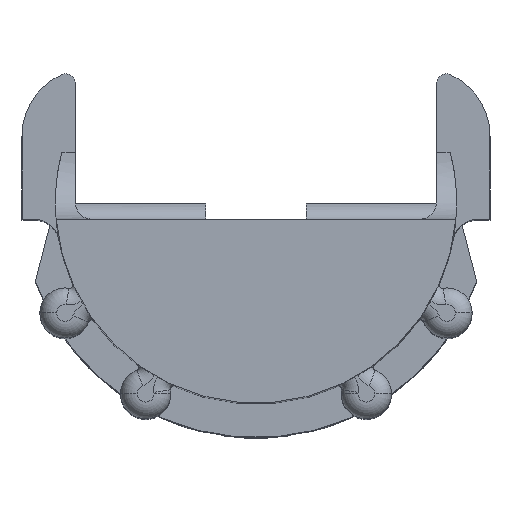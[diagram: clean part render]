
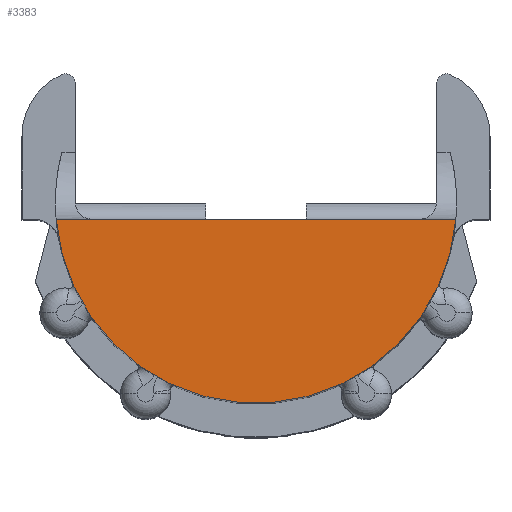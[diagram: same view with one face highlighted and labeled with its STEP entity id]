
A CAD part, top view. The second image highlights one B-rep face of the part: STEP entity #3383.
In plain terms, the highlighted planar face has unit normal (0, 0, 1).
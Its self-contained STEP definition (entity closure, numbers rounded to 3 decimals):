
#725 = CARTESIAN_POINT ( 'NONE',  ( 4.9, -0.5, 35.353 ) ) ;
#951 = EDGE_CURVE ( 'NONE', #1383, #2609, #1309, .T. ) ;
#1104 = ORIENTED_EDGE ( 'NONE', *, *, #2038, .F. ) ;
#1309 = LINE ( 'NONE', #3339, #4963 ) ;
#1383 = VERTEX_POINT ( 'NONE', #2916 ) ;
#1872 = LINE ( 'NONE', #6035, #6568 ) ;
#2038 = EDGE_CURVE ( 'NONE', #2609, #2190, #4348, .T. ) ;
#2043 = DIRECTION ( 'NONE',  ( 1., 0., 0. ) ) ;
#2190 = VERTEX_POINT ( 'NONE', #725 ) ;
#2353 = ORIENTED_EDGE ( 'NONE', *, *, #951, .F. ) ;
#2365 = EDGE_LOOP ( 'NONE', ( #5175, #2774, #1104, #2353 ) ) ;
#2413 = DIRECTION ( 'NONE',  ( 1., 0., 0. ) ) ;
#2467 = AXIS2_PLACEMENT_3D ( 'NONE', #3101, #2580, #2413 ) ;
#2580 = DIRECTION ( 'NONE',  ( 0., 0., 1. ) ) ;
#2609 = VERTEX_POINT ( 'NONE', #4023 ) ;
#2657 = DIRECTION ( 'NONE',  ( 1., 0., 0. ) ) ;
#2699 = CARTESIAN_POINT ( 'NONE',  ( 5.979, -0.5, 35.353 ) ) ;
#2774 = ORIENTED_EDGE ( 'NONE', *, *, #6623, .F. ) ;
#2786 = CARTESIAN_POINT ( 'NONE',  ( -6., -0.5, 35.353 ) ) ;
#2916 = CARTESIAN_POINT ( 'NONE',  ( -5.979, -0.5, 35.353 ) ) ;
#3101 = CARTESIAN_POINT ( 'NONE',  ( 0., 0., 35.353 ) ) ;
#3109 = VERTEX_POINT ( 'NONE', #2699 ) ;
#3112 = CARTESIAN_POINT ( 'NONE',  ( 0., 0., 35.353 ) ) ;
#3192 = VECTOR ( 'NONE', #2657, 1000. ) ;
#3248 = CIRCLE ( 'NONE', #5340, 6. ) ;
#3339 = CARTESIAN_POINT ( 'NONE',  ( -6., -0.5, 35.353 ) ) ;
#3383 = ADVANCED_FACE ( 'NONE', ( #3614 ), #5711, .T. ) ;
#3614 = FACE_OUTER_BOUND ( 'NONE', #2365, .T. ) ;
#4023 = CARTESIAN_POINT ( 'NONE',  ( -4.9, -0.5, 35.353 ) ) ;
#4186 = DIRECTION ( 'NONE',  ( 0., 0., 1. ) ) ;
#4348 = LINE ( 'NONE', #2786, #3192 ) ;
#4495 = DIRECTION ( 'NONE',  ( 1., 0., 0. ) ) ;
#4648 = EDGE_CURVE ( 'NONE', #1383, #3109, #3248, .T. ) ;
#4963 = VECTOR ( 'NONE', #4993, 1000. ) ;
#4993 = DIRECTION ( 'NONE',  ( 1., 0., 0. ) ) ;
#5175 = ORIENTED_EDGE ( 'NONE', *, *, #4648, .T. ) ;
#5340 = AXIS2_PLACEMENT_3D ( 'NONE', #3112, #4186, #2043 ) ;
#5711 = PLANE ( 'NONE',  #2467 ) ;
#6035 = CARTESIAN_POINT ( 'NONE',  ( -6., -0.5, 35.353 ) ) ;
#6568 = VECTOR ( 'NONE', #4495, 1000. ) ;
#6623 = EDGE_CURVE ( 'NONE', #2190, #3109, #1872, .T. ) ;
